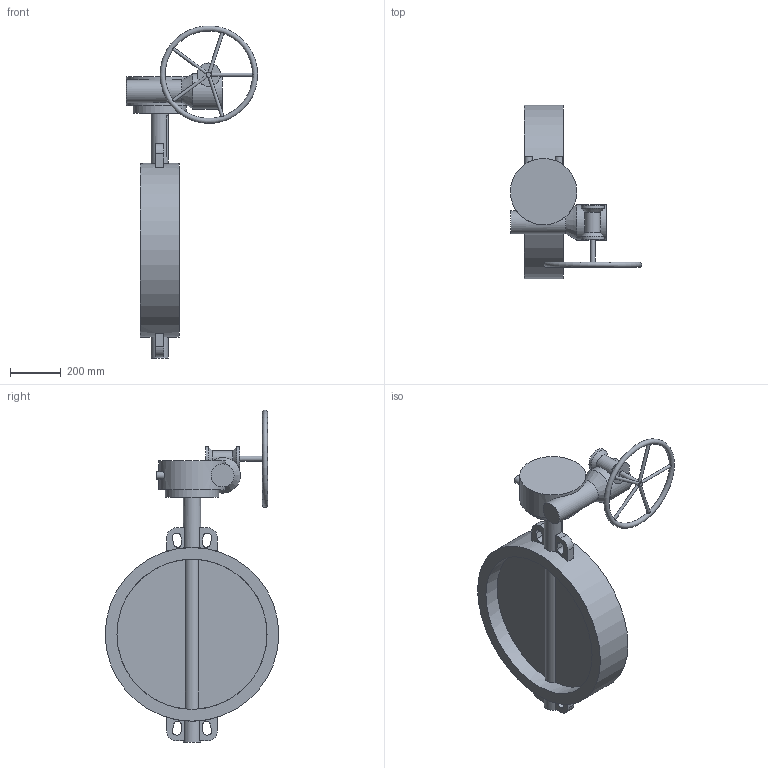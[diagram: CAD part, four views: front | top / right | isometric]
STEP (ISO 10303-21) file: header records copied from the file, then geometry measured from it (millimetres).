
FILE_DESCRIPTION(('STEP AP203'), '1');
FILE_NAME('青蜮铕 017W.ZS DN600 PN10_16 疱潴牝铕', '', ('UNSPECIFIED'), ('UNSPECIFIED'), 'ASCON STEP Converter 1.6', 'ASCON Math Kernel', '');
FILE_SCHEMA(('CONFIG_CONTROL_DESIGN'));
Length unit declared in the file: millimetre
Bounding box: 517.49 x 685 x 1309.97 mm (x, y, z)
Volume: 35321837.9 mm3; surface area: 1890528.6 mm2
Topology: 1 solids, 1 shells, 786 faces, 2245 edges, 1495 vertices
Faces by surface type: cylinder 595, plane 187, cone 3, torus 1
Full cylindrical faces by diameter (mm): 12 x5, 17.5 x4, 20 x2, 22 x4, 30 x2, 68 x2, 90 x1, 92 x2, 140 x1, 210 x1, 262 x1, 592.5 x2, 685 x1
Entity records: 35706 total; most frequent: CARTESIAN_POINT 7845, DIRECTION 4936, ORIENTED_EDGE 4428, EDGE_CURVE 2214, AXIS2_PLACEMENT_3D 1982, VERTEX_POINT 1494, CIRCLE 1195, LINE 972
